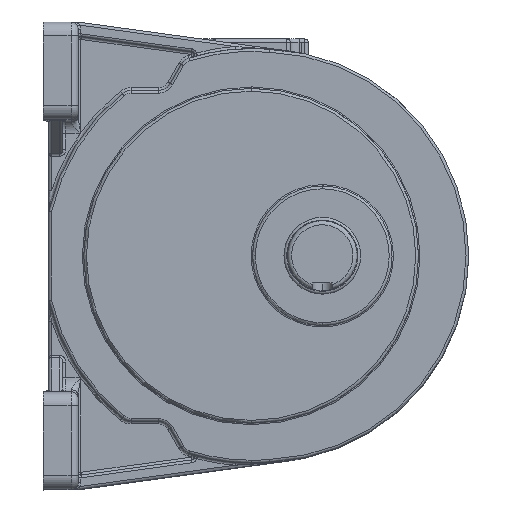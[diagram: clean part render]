
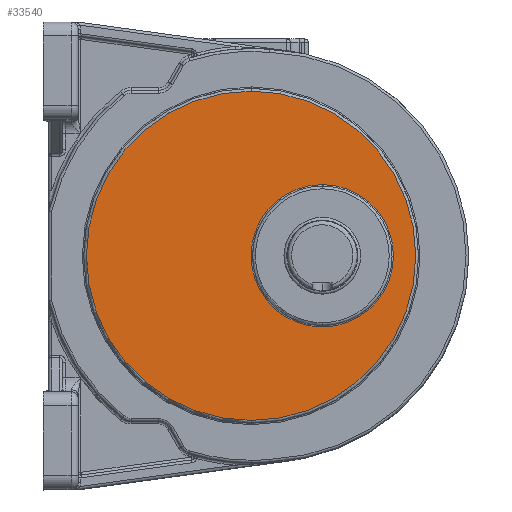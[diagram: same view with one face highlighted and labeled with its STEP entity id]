
A CAD part, top view. The second image highlights one B-rep face of the part: STEP entity #33540.
In plain terms, the highlighted planar face has unit normal (0, 0, 1).
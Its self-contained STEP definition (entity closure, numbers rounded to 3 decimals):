
#33456=CARTESIAN_POINT('',(6230.36,-1614.222,309.896));
#33457=VERTEX_POINT('',#33456);
#33467=CARTESIAN_POINT('',(6230.317,-1512.222,309.896));
#33468=VERTEX_POINT('',#33467);
#33476=CARTESIAN_POINT('',(6229.576,-1614.216,309.896));
#33477=VERTEX_POINT('',#33476);
#33478=CARTESIAN_POINT('',(6230.338,-1563.222,309.896));
#33479=DIRECTION('',(0.,0.,1.));
#33480=DIRECTION('',(0.,1.,0.));
#33481=AXIS2_PLACEMENT_3D('',#33478,#33479,#33480);
#33482=CIRCLE('',#33481,51.);
#33483=EDGE_CURVE('',#33468,#33477,#33482,.T.);
#33485=CARTESIAN_POINT('',(6230.338,-1563.222,309.896));
#33486=DIRECTION('',(0.,0.,-1.));
#33487=DIRECTION('',(0.,-1.,0.));
#33488=AXIS2_PLACEMENT_3D('',#33485,#33486,#33487);
#33489=CIRCLE('',#33488,51.);
#33490=EDGE_CURVE('',#33457,#33477,#33489,.T.);
#33495=CARTESIAN_POINT('',(6179.338,-1563.222,309.896));
#33496=DIRECTION('',(0.,0.,1.));
#33497=DIRECTION('',(0.,-1.,0.));
#33498=AXIS2_PLACEMENT_3D('',#33495,#33496,#33497);
#33499=PLANE('',#33498);
#33500=CARTESIAN_POINT('',(6179.338,-1445.222,309.896));
#33501=VERTEX_POINT('',#33500);
#33502=CARTESIAN_POINT('',(6179.338,-1681.222,309.896));
#33503=VERTEX_POINT('',#33502);
#33504=CARTESIAN_POINT('',(6179.338,-1563.222,309.896));
#33505=DIRECTION('',(0.,0.,-1.));
#33506=DIRECTION('',(0.,1.,0.));
#33507=AXIS2_PLACEMENT_3D('',#33504,#33505,#33506);
#33508=CIRCLE('',#33507,118.);
#33509=EDGE_CURVE('',#33501,#33503,#33508,.T.);
#33510=ORIENTED_EDGE('',*,*,#33509,.F.);
#33511=CARTESIAN_POINT('',(6179.338,-1563.222,309.896));
#33512=DIRECTION('',(0.,0.,-1.));
#33513=DIRECTION('',(0.,-1.,0.));
#33514=AXIS2_PLACEMENT_3D('',#33511,#33512,#33513);
#33515=CIRCLE('',#33514,118.);
#33516=EDGE_CURVE('',#33503,#33501,#33515,.T.);
#33517=ORIENTED_EDGE('',*,*,#33516,.F.);
#33518=EDGE_LOOP('',(#33510,#33517));
#33519=FACE_BOUND('',#33518,.T.);
#33520=ORIENTED_EDGE('',*,*,#33490,.T.);
#33521=ORIENTED_EDGE('',*,*,#33483,.F.);
#33522=CARTESIAN_POINT('',(6231.101,-1512.228,309.896));
#33523=VERTEX_POINT('',#33522);
#33524=CARTESIAN_POINT('',(6230.338,-1563.222,309.896));
#33525=DIRECTION('',(0.,0.,-1.));
#33526=DIRECTION('',(0.,1.,0.));
#33527=AXIS2_PLACEMENT_3D('',#33524,#33525,#33526);
#33528=CIRCLE('',#33527,51.);
#33529=EDGE_CURVE('',#33468,#33523,#33528,.T.);
#33530=ORIENTED_EDGE('',*,*,#33529,.T.);
#33531=CARTESIAN_POINT('',(6230.338,-1563.222,309.896));
#33532=DIRECTION('',(0.,0.,1.));
#33533=DIRECTION('',(0.,-1.,0.));
#33534=AXIS2_PLACEMENT_3D('',#33531,#33532,#33533);
#33535=CIRCLE('',#33534,51.);
#33536=EDGE_CURVE('',#33457,#33523,#33535,.T.);
#33537=ORIENTED_EDGE('',*,*,#33536,.F.);
#33538=EDGE_LOOP('',(#33520,#33521,#33530,#33537));
#33539=FACE_BOUND('',#33538,.T.);
#33540=ADVANCED_FACE('',(#33519,#33539),#33499,.T.);
